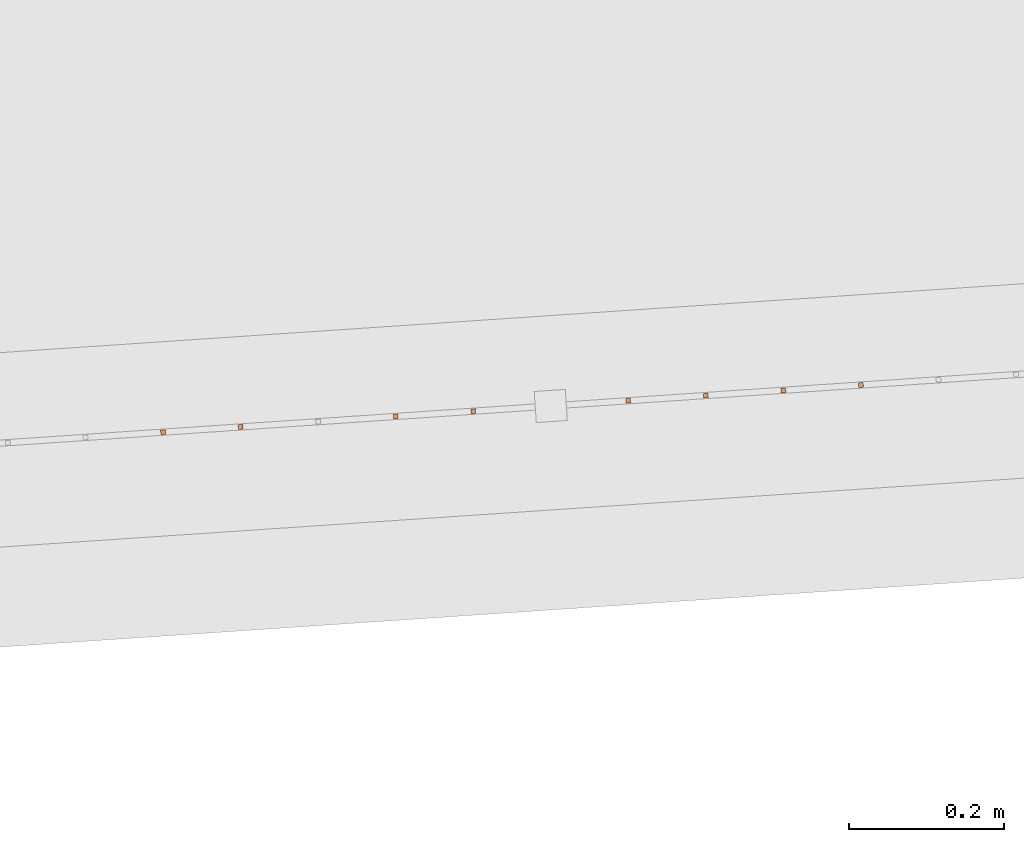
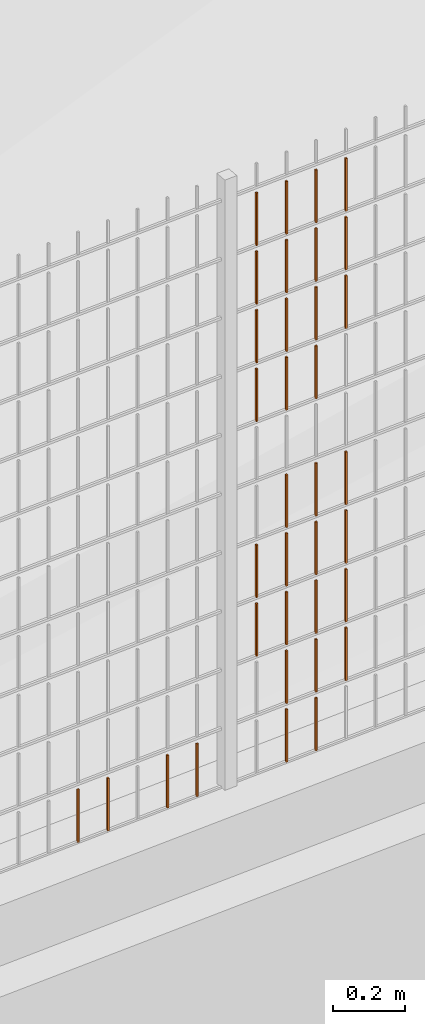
# One storey, part 88 of 1809: 35 proxies, 1 element without a shape of its own.
"""IFC2X3 building model written with IfcOpenShell, lengths in millimetres."""

from ifc_helpers import new_model, entity, si_unit, converted_unit, derived_unit, money_unit, direction, frame, origin_with_axes, place, context, subcontext, project, spatial, faceted_brep, source, transform, mapped, material, type_object, element, aggregate, save


model = new_model("IFC2X3")

# Units and contexts
model_context = context("Model", 3, precision=0.01, world=origin_with_axes(), true_north=direction((0.0, 1.0)))
body_context = subcontext(model_context, "Body", "Model", "MODEL_VIEW")
ifc_project = project(units=[si_unit("LENGTHUNIT", "METRE", prefix="MILLI"), si_unit("AREAUNIT", "SQUARE_METRE"), si_unit("VOLUMEUNIT", "CUBIC_METRE"), converted_unit("PLANEANGLEUNIT", "DEGREE", entity("IfcPlaneAngleMeasure", 0.0174532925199), si_unit("PLANEANGLEUNIT", "RADIAN"), dimensions=[0, 0, 0, 0, 0, 0, 0]), si_unit("SOLIDANGLEUNIT", "STERADIAN"), money_unit("EUR"), converted_unit("TIMEUNIT", "Year", entity("IfcTimeMeasure", 31556926.0), si_unit("TIMEUNIT", "SECOND"), dimensions=[0, 0, 1, 0, 0, 0, 0]), si_unit("MASSUNIT", "GRAM", prefix="KILO"), si_unit("THERMODYNAMICTEMPERATUREUNIT", "DEGREE_CELSIUS"), si_unit("LUMINOUSINTENSITYUNIT", "LUMEN"), si_unit("ENERGYUNIT", "JOULE", prefix="MEGA"), derived_unit("THERMALCONDUCTANCEUNIT", [(si_unit("POWERUNIT", "WATT"), 1), (si_unit("LENGTHUNIT", "METRE"), -1), (si_unit("THERMODYNAMICTEMPERATUREUNIT", "KELVIN"), -1)]), derived_unit("SPECIFICHEATCAPACITYUNIT", [(si_unit("ENERGYUNIT", "JOULE"), 1), (si_unit("MASSUNIT", "GRAM", prefix="KILO"), -1), (si_unit("THERMODYNAMICTEMPERATUREUNIT", "KELVIN"), -1)]), derived_unit("MASSDENSITYUNIT", [(si_unit("MASSUNIT", "GRAM", prefix="KILO"), 1), (si_unit("VOLUMEUNIT", "CUBIC_METRE"), -1)])], contexts=[model_context])

# Site, building, storey
site_placement = place(None, origin_with_axes())
site = spatial("IfcSite", under=ifc_project, at=site_placement, Name="Politse- ja Piirivalveameti ning Päästeameti ühishoone", CompositionType="ELEMENT")
building_placement = place(site_placement, origin_with_axes())
building = spatial("IfcBuilding", under=site, at=building_placement, Name="Politse- ja Piirivalveameti ning Päästeameti ühishoone", CompositionType="ELEMENT")
storey_placement = place(building_placement, origin_with_axes())
storey = spatial("IfcBuildingStorey", under=building, at=storey_placement, Name="Esimene korrus", CompositionType="ELEMENT", Elevation=0.0)

# Proxies
building_element_proxy_type_1 = type_object("IfcBuildingElementProxyType", Name="Railing Type", PredefinedType="NOTDEFINED")
proxy_1_placement = place(storey_placement, frame((89252.001212, -29183.4766571, 203.661247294), z_axis=(0.0, 0.0, 1.0), x_axis=(1.0, 0.0, 0.0)))
proxy_1 = element("IfcBuildingElementProxy", 1, at=proxy_1_placement, inside=storey, type_object=building_element_proxy_type_1, Name="PIIRDEAED")
ifc_material = material(Name="ET-03_Raud")
building_element_proxy_type_2 = type_object("IfcBuildingElementProxyType", Name="IfcBuildingElementProxy", PredefinedType="NOTDEFINED")
shared_shape_1 = source(origin_with_axes(), body_context, "Body", "Brep", [
    faceted_brep([(3.0, 3.0, -0.000752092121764), (-3.0, 3.0, -0.000752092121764), (-3.0, 3.0, 179.99926046), (3.0, 3.0, 179.99926046), (3.0, -3.0, 0.000752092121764), (-3.0, -3.0, 0.000752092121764), (-3.0, -3.0, 180.000764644), (3.0, -3.0, 180.000764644)], [[[0, 1, 2, 3]], [[0, 4, 5, 1]], [[1, 5, 6, 2]], [[3, 2, 6, 7]], [[4, 0, 3, 7]], [[5, 4, 7, 6]]]),
])
proxy_2_placement = place(proxy_1_placement, frame((-99300.4170534, -24005.1431873, 802.283306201), z_axis=(0.0, 0.0, 1.0), x_axis=(1.0, 0.0, 0.0)))
proxy_2 = element("IfcBuildingElementProxy", 2, at=proxy_2_placement, type_object=building_element_proxy_type_2, material=ifc_material, Name="BALUSTER - 001", context=body_context, shape_type="MappedRepresentation", body=[
    mapped(shared_shape_1, transform((0.0, 0.0, 0.0), x_axis=(-0.0673926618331, 0.997726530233, 0.0), y_axis=(-0.997726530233, -0.0673926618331, 0.0), z_axis=(0.0, 0.0, 1.0))),
])
shared_shape_2 = source(origin_with_axes(), body_context, "Body", "Brep", [
    faceted_brep([(3.0, 3.0, -0.000752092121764), (-3.0, 3.0, -0.000752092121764), (-3.0, 3.0, 179.99926046), (3.0, 3.0, 179.99926046), (3.0, -3.0, 0.000752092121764), (-3.0, -3.0, 0.000752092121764), (-3.0, -3.0, 180.000764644), (3.0, -3.0, 180.000764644)], [[[0, 1, 2, 3]], [[0, 4, 5, 1]], [[1, 5, 6, 2]], [[3, 2, 6, 7]], [[4, 0, 3, 7]], [[5, 4, 7, 6]]]),
])
proxy_3_placement = place(proxy_1_placement, frame((-99300.4170534, -24005.1431873, 202.283306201), z_axis=(0.0, 0.0, 1.0), x_axis=(1.0, 0.0, 0.0)))
proxy_3 = element("IfcBuildingElementProxy", 3, at=proxy_3_placement, type_object=building_element_proxy_type_2, material=ifc_material, Name="BALUSTER - 001", context=body_context, shape_type="MappedRepresentation", body=[
    mapped(shared_shape_2, transform((0.0, 0.0, 0.0), x_axis=(-0.0673926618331, 0.997726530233, 0.0), y_axis=(-0.997726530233, -0.0673926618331, 0.0), z_axis=(0.0, 0.0, 1.0))),
])
shared_shape_3 = source(origin_with_axes(), body_context, "Body", "Brep", [
    faceted_brep([(3.0, 3.0, -0.000752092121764), (-3.0, 3.0, -0.000752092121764), (-3.0, 3.0, 179.99926046), (3.0, 3.0, 179.99926046), (3.0, -3.0, 0.000752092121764), (-3.0, -3.0, 0.000752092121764), (-3.0, -3.0, 180.000764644), (3.0, -3.0, 180.000764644)], [[[0, 1, 2, 3]], [[0, 4, 5, 1]], [[1, 5, 6, 2]], [[3, 2, 6, 7]], [[4, 0, 3, 7]], [[5, 4, 7, 6]]]),
])
proxy_4_placement = place(proxy_1_placement, frame((-99300.4170534, -24005.1431873, 402.283306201), z_axis=(0.0, 0.0, 1.0), x_axis=(1.0, 0.0, 0.0)))
proxy_4 = element("IfcBuildingElementProxy", 4, at=proxy_4_placement, type_object=building_element_proxy_type_2, material=ifc_material, Name="BALUSTER - 001", context=body_context, shape_type="MappedRepresentation", body=[
    mapped(shared_shape_3, transform((0.0, 0.0, 0.0), x_axis=(-0.0673926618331, 0.997726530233, 0.0), y_axis=(-0.997726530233, -0.0673926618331, 0.0), z_axis=(0.0, 0.0, 1.0))),
])
proxy_5_placement = place(proxy_1_placement, frame((-99300.4170534, -24005.1431873, 602.283306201), z_axis=(0.0, 0.0, 1.0), x_axis=(1.0, 0.0, 0.0)))
proxy_5 = element("IfcBuildingElementProxy", 5, at=proxy_5_placement, type_object=building_element_proxy_type_2, material=ifc_material, Name="BALUSTER - 001", context=body_context, shape_type="MappedRepresentation", body=[
    mapped(shared_shape_3, transform((0.0, 0.0, 0.0), x_axis=(-0.0673926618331, 0.997726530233, 0.0), y_axis=(-0.997726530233, -0.0673926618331, 0.0), z_axis=(0.0, 0.0, 1.0))),
])
shared_shape_4 = source(origin_with_axes(), body_context, "Body", "Brep", [
    faceted_brep([(3.0, 3.0, -0.000752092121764), (-3.0, 3.0, -0.000752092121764), (-3.0, 3.0, 179.99926046), (3.0, 3.0, 179.99926046), (3.0, -3.0, 0.000752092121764), (-3.0, -3.0, 0.000752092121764), (-3.0, -3.0, 180.000764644), (3.0, -3.0, 180.000764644)], [[[0, 1, 2, 3]], [[0, 4, 5, 1]], [[1, 5, 6, 2]], [[3, 2, 6, 7]], [[4, 0, 3, 7]], [[5, 4, 7, 6]]]),
])
proxy_6_placement = place(proxy_1_placement, frame((-99300.4170534, -24005.1431873, 2.28330620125), z_axis=(0.0, 0.0, 1.0), x_axis=(1.0, 0.0, 0.0)))
proxy_6 = element("IfcBuildingElementProxy", 6, at=proxy_6_placement, type_object=building_element_proxy_type_2, material=ifc_material, Name="BALUSTER - 001", context=body_context, shape_type="MappedRepresentation", body=[
    mapped(shared_shape_4, transform((0.0, 0.0, 0.0), x_axis=(-0.0673926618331, 0.997726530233, 0.0), y_axis=(-0.997726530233, -0.0673926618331, 0.0), z_axis=(0.0, 0.0, 1.0))),
])
shared_shape_5 = source(origin_with_axes(), body_context, "Body", "Brep", [
    faceted_brep([(3.0, 3.0, -0.000752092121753), (-3.0, 3.0, -0.000752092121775), (-3.0, 3.0, 179.99926046), (3.0, 3.0, 179.99926046), (3.0, -3.0, 0.000752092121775), (-3.0, -3.0, 0.000752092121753), (-3.0, -3.0, 180.000764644), (3.0, -3.0, 180.000764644)], [[[0, 1, 2, 3]], [[0, 4, 5, 1]], [[1, 5, 6, 2]], [[3, 2, 6, 7]], [[4, 0, 3, 7]], [[5, 4, 7, 6]]]),
])
proxy_7_placement = place(proxy_1_placement, frame((-99400.1897064, -24011.8824535, 2.25823646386), z_axis=(0.0, 0.0, 1.0), x_axis=(1.0, 0.0, 0.0)))
proxy_7 = element("IfcBuildingElementProxy", 7, at=proxy_7_placement, type_object=building_element_proxy_type_2, material=ifc_material, Name="BALUSTER - 001", context=body_context, shape_type="MappedRepresentation", body=[
    mapped(shared_shape_5, transform((0.0, 0.0, 0.0), x_axis=(-0.0673926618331, 0.997726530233, 0.0), y_axis=(-0.997726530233, -0.0673926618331, 0.0), z_axis=(0.0, 0.0, 1.0))),
])
proxy_8_placement = place(proxy_1_placement, frame((-99400.1897064, -24011.8824535, 202.258236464), z_axis=(0.0, 0.0, 1.0), x_axis=(1.0, 0.0, 0.0)))
proxy_8 = element("IfcBuildingElementProxy", 8, at=proxy_8_placement, type_object=building_element_proxy_type_2, material=ifc_material, Name="BALUSTER - 001", context=body_context, shape_type="MappedRepresentation", body=[
    mapped(shared_shape_5, transform((0.0, 0.0, 0.0), x_axis=(-0.0673926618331, 0.997726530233, 0.0), y_axis=(-0.997726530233, -0.0673926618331, 0.0), z_axis=(0.0, 0.0, 1.0))),
])
proxy_9_placement = place(proxy_1_placement, frame((-99998.8256245, -24052.3180506, 2.10781803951), z_axis=(0.0, 0.0, 1.0), x_axis=(1.0, 0.0, 0.0)))
proxy_9 = element("IfcBuildingElementProxy", 9, at=proxy_9_placement, type_object=building_element_proxy_type_2, material=ifc_material, Name="BALUSTER - 001", context=body_context, shape_type="MappedRepresentation", body=[
    mapped(shared_shape_5, transform((0.0, 0.0, 0.0), x_axis=(-0.0673926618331, 0.997726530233, 0.0), y_axis=(-0.997726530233, -0.0673926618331, 0.0), z_axis=(0.0, 0.0, 1.0))),
])
shared_shape_6 = source(origin_with_axes(), body_context, "Body", "Brep", [
    faceted_brep([(3.0, 3.0, -0.000752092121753), (-3.0, 3.0, -0.000752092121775), (-3.0, 3.0, 179.99926046), (3.0, 3.0, 179.99926046), (3.0, -3.0, 0.000752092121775), (-3.0, -3.0, 0.000752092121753), (-3.0, -3.0, 180.000764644), (3.0, -3.0, 180.000764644)], [[[0, 1, 2, 3]], [[0, 4, 5, 1]], [[1, 5, 6, 2]], [[3, 2, 6, 7]], [[4, 0, 3, 7]], [[5, 4, 7, 6]]]),
])
proxy_10_placement = place(proxy_1_placement, frame((-99400.1897064, -24011.8824535, 402.258236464), z_axis=(0.0, 0.0, 1.0), x_axis=(1.0, 0.0, 0.0)))
proxy_10 = element("IfcBuildingElementProxy", 10, at=proxy_10_placement, type_object=building_element_proxy_type_2, material=ifc_material, Name="BALUSTER - 001", context=body_context, shape_type="MappedRepresentation", body=[
    mapped(shared_shape_6, transform((0.0, 0.0, 0.0), x_axis=(-0.0673926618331, 0.997726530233, 0.0), y_axis=(-0.997726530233, -0.0673926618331, 0.0), z_axis=(0.0, 0.0, 1.0))),
])
shared_shape_7 = source(origin_with_axes(), body_context, "Body", "Brep", [
    faceted_brep([(3.0, 3.0, -0.000752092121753), (-3.0, 3.0, -0.000752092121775), (-3.0, 3.0, 179.99926046), (3.0, 3.0, 179.99926046), (3.0, -3.0, 0.000752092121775), (-3.0, -3.0, 0.000752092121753), (-3.0, -3.0, 180.000764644), (3.0, -3.0, 180.000764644)], [[[0, 1, 2, 3]], [[0, 4, 5, 1]], [[1, 5, 6, 2]], [[3, 2, 6, 7]], [[4, 0, 3, 7]], [[5, 4, 7, 6]]]),
])
proxy_11_placement = place(proxy_1_placement, frame((-99400.1897064, -24011.8824535, 602.258236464), z_axis=(0.0, 0.0, 1.0), x_axis=(1.0, 0.0, 0.0)))
proxy_11 = element("IfcBuildingElementProxy", 11, at=proxy_11_placement, type_object=building_element_proxy_type_2, material=ifc_material, Name="BALUSTER - 001", context=body_context, shape_type="MappedRepresentation", body=[
    mapped(shared_shape_7, transform((0.0, 0.0, 0.0), x_axis=(-0.0673926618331, 0.997726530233, 0.0), y_axis=(-0.997726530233, -0.0673926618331, 0.0), z_axis=(0.0, 0.0, 1.0))),
])
shared_shape_8 = source(origin_with_axes(), body_context, "Body", "Brep", [
    faceted_brep([(3.0, 3.0, -0.000752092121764), (-3.0, 3.0, -0.000752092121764), (-3.0, 3.0, 179.99926046), (3.0, 3.0, 179.99926046), (3.0, -3.0, 0.000752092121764), (-3.0, -3.0, 0.000752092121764), (-3.0, -3.0, 180.000764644), (3.0, -3.0, 180.000764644)], [[[0, 1, 2, 3]], [[0, 4, 5, 1]], [[1, 5, 6, 2]], [[3, 2, 6, 7]], [[4, 0, 3, 7]], [[5, 4, 7, 6]]]),
])
proxy_12_placement = place(proxy_1_placement, frame((-99499.9623594, -24018.6217197, 1802.23316673), z_axis=(0.0, 0.0, 1.0), x_axis=(1.0, 0.0, 0.0)))
proxy_12 = element("IfcBuildingElementProxy", 12, at=proxy_12_placement, type_object=building_element_proxy_type_2, material=ifc_material, Name="BALUSTER - 001", context=body_context, shape_type="MappedRepresentation", body=[
    mapped(shared_shape_8, transform((0.0, 0.0, 0.0), x_axis=(-0.0673926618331, 0.997726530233, 0.0), y_axis=(-0.997726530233, -0.0673926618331, 0.0), z_axis=(0.0, 0.0, 1.0))),
])
shared_shape_9 = source(origin_with_axes(), body_context, "Body", "Brep", [
    faceted_brep([(3.0, 3.0, -0.000752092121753), (-3.0, 3.0, -0.000752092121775), (-3.0, 3.0, 179.99926046), (3.0, 3.0, 179.99926046), (3.0, -3.0, 0.000752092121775), (-3.0, -3.0, 0.000752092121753), (-3.0, -3.0, 180.000764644), (3.0, -3.0, 180.000764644)], [[[0, 1, 2, 3]], [[0, 4, 5, 1]], [[1, 5, 6, 2]], [[3, 2, 6, 7]], [[4, 0, 3, 7]], [[5, 4, 7, 6]]]),
])
proxy_13_placement = place(proxy_1_placement, frame((-99400.1897064, -24011.8824535, 802.258236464), z_axis=(0.0, 0.0, 1.0), x_axis=(1.0, 0.0, 0.0)))
proxy_13 = element("IfcBuildingElementProxy", 13, at=proxy_13_placement, type_object=building_element_proxy_type_2, material=ifc_material, Name="BALUSTER - 001", context=body_context, shape_type="MappedRepresentation", body=[
    mapped(shared_shape_9, transform((0.0, 0.0, 0.0), x_axis=(-0.0673926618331, 0.997726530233, 0.0), y_axis=(-0.997726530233, -0.0673926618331, 0.0), z_axis=(0.0, 0.0, 1.0))),
])
shared_shape_10 = source(origin_with_axes(), body_context, "Body", "Brep", [
    faceted_brep([(3.0, 3.0, -0.000752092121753), (-3.0, 3.0, -0.000752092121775), (-3.0, 3.0, 179.99926046), (3.0, 3.0, 179.99926046), (3.0, -3.0, 0.000752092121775), (-3.0, -3.0, 0.000752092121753), (-3.0, -3.0, 180.000764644), (3.0, -3.0, 180.000764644)], [[[0, 1, 2, 3]], [[0, 4, 5, 1]], [[1, 5, 6, 2]], [[3, 2, 6, 7]], [[4, 0, 3, 7]], [[5, 4, 7, 6]]]),
])
proxy_14_placement = place(proxy_1_placement, frame((-99699.5076655, -24032.100252, 2.18302725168), z_axis=(0.0, 0.0, 1.0), x_axis=(1.0, 0.0, 0.0)))
proxy_14 = element("IfcBuildingElementProxy", 14, at=proxy_14_placement, type_object=building_element_proxy_type_2, material=ifc_material, Name="BALUSTER - 001", context=body_context, shape_type="MappedRepresentation", body=[
    mapped(shared_shape_10, transform((0.0, 0.0, 0.0), x_axis=(-0.0673926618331, 0.997726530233, 0.0), y_axis=(-0.997726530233, -0.0673926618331, 0.0), z_axis=(0.0, 0.0, 1.0))),
])
shared_shape_11 = source(origin_with_axes(), body_context, "Body", "Brep", [
    faceted_brep([(3.0, 3.0, -0.000752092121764), (-3.0, 3.0, -0.000752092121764), (-3.0, 3.0, 179.99926046), (3.0, 3.0, 179.99926046), (3.0, -3.0, 0.000752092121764), (-3.0, -3.0, 0.000752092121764), (-3.0, -3.0, 180.000764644), (3.0, -3.0, 180.000764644)], [[[0, 1, 2, 3]], [[0, 4, 5, 1]], [[1, 5, 6, 2]], [[3, 2, 6, 7]], [[4, 0, 3, 7]], [[5, 4, 7, 6]]]),
])
proxy_15_placement = place(proxy_1_placement, frame((-99499.9623594, -24018.6217197, 1202.23316673), z_axis=(0.0, 0.0, 1.0), x_axis=(1.0, 0.0, 0.0)))
proxy_15 = element("IfcBuildingElementProxy", 15, at=proxy_15_placement, type_object=building_element_proxy_type_2, material=ifc_material, Name="BALUSTER - 001", context=body_context, shape_type="MappedRepresentation", body=[
    mapped(shared_shape_11, transform((0.0, 0.0, 0.0), x_axis=(-0.0673926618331, 0.997726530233, 0.0), y_axis=(-0.997726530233, -0.0673926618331, 0.0), z_axis=(0.0, 0.0, 1.0))),
])
shared_shape_12 = source(origin_with_axes(), body_context, "Body", "Brep", [
    faceted_brep([(3.0, 3.0, -0.000752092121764), (-3.0, 3.0, -0.000752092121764), (-3.0, 3.0, 179.99926046), (3.0, 3.0, 179.99926046), (3.0, -3.0, 0.000752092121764), (-3.0, -3.0, 0.000752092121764), (-3.0, -3.0, 180.000764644), (3.0, -3.0, 180.000764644)], [[[0, 1, 2, 3]], [[0, 4, 5, 1]], [[1, 5, 6, 2]], [[3, 2, 6, 7]], [[4, 0, 3, 7]], [[5, 4, 7, 6]]]),
])
proxy_16_placement = place(proxy_1_placement, frame((-99499.9623594, -24018.6217197, 1402.23316673), z_axis=(0.0, 0.0, 1.0), x_axis=(1.0, 0.0, 0.0)))
proxy_16 = element("IfcBuildingElementProxy", 16, at=proxy_16_placement, type_object=building_element_proxy_type_2, material=ifc_material, Name="BALUSTER - 001", context=body_context, shape_type="MappedRepresentation", body=[
    mapped(shared_shape_12, transform((0.0, 0.0, 0.0), x_axis=(-0.0673926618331, 0.997726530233, 0.0), y_axis=(-0.997726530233, -0.0673926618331, 0.0), z_axis=(0.0, 0.0, 1.0))),
])
proxy_17_placement = place(proxy_1_placement, frame((-99499.9623594, -24018.6217197, 1602.23316673), z_axis=(0.0, 0.0, 1.0), x_axis=(1.0, 0.0, 0.0)))
proxy_17 = element("IfcBuildingElementProxy", 17, at=proxy_17_placement, type_object=building_element_proxy_type_2, material=ifc_material, Name="BALUSTER - 001", context=body_context, shape_type="MappedRepresentation", body=[
    mapped(shared_shape_12, transform((0.0, 0.0, 0.0), x_axis=(-0.0673926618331, 0.997726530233, 0.0), y_axis=(-0.997726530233, -0.0673926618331, 0.0), z_axis=(0.0, 0.0, 1.0))),
])
shared_shape_13 = source(origin_with_axes(), body_context, "Body", "Brep", [
    faceted_brep([(3.0, 3.0, -0.000752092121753), (-3.0, 3.0, -0.000752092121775), (-3.0, 3.0, 179.99926046), (3.0, 3.0, 179.99926046), (3.0, -3.0, 0.000752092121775), (-3.0, -3.0, 0.000752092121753), (-3.0, -3.0, 180.000764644), (3.0, -3.0, 180.000764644)], [[[0, 1, 2, 3]], [[0, 4, 5, 1]], [[1, 5, 6, 2]], [[3, 2, 6, 7]], [[4, 0, 3, 7]], [[5, 4, 7, 6]]]),
])
proxy_18_placement = place(proxy_1_placement, frame((-99400.1897064, -24011.8824535, 1802.25823646), z_axis=(0.0, 0.0, 1.0), x_axis=(1.0, 0.0, 0.0)))
proxy_18 = element("IfcBuildingElementProxy", 18, at=proxy_18_placement, type_object=building_element_proxy_type_2, material=ifc_material, Name="BALUSTER - 001", context=body_context, shape_type="MappedRepresentation", body=[
    mapped(shared_shape_13, transform((0.0, 0.0, 0.0), x_axis=(-0.0673926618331, 0.997726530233, 0.0), y_axis=(-0.997726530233, -0.0673926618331, 0.0), z_axis=(0.0, 0.0, 1.0))),
])
shared_shape_14 = source(origin_with_axes(), body_context, "Body", "Brep", [
    faceted_brep([(3.0, 3.0, -0.000752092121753), (-3.0, 3.0, -0.000752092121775), (-3.0, 3.0, 179.99926046), (3.0, 3.0, 179.99926046), (3.0, -3.0, 0.000752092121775), (-3.0, -3.0, 0.000752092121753), (-3.0, -3.0, 180.000764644), (3.0, -3.0, 180.000764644)], [[[0, 1, 2, 3]], [[0, 4, 5, 1]], [[1, 5, 6, 2]], [[3, 2, 6, 7]], [[4, 0, 3, 7]], [[5, 4, 7, 6]]]),
])
proxy_19_placement = place(proxy_1_placement, frame((-99400.1897064, -24011.8824535, 1202.25823646), z_axis=(0.0, 0.0, 1.0), x_axis=(1.0, 0.0, 0.0)))
proxy_19 = element("IfcBuildingElementProxy", 19, at=proxy_19_placement, type_object=building_element_proxy_type_2, material=ifc_material, Name="BALUSTER - 001", context=body_context, shape_type="MappedRepresentation", body=[
    mapped(shared_shape_14, transform((0.0, 0.0, 0.0), x_axis=(-0.0673926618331, 0.997726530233, 0.0), y_axis=(-0.997726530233, -0.0673926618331, 0.0), z_axis=(0.0, 0.0, 1.0))),
])
shared_shape_15 = source(origin_with_axes(), body_context, "Body", "Brep", [
    faceted_brep([(3.0, 3.0, -0.000752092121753), (-3.0, 3.0, -0.000752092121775), (-3.0, 3.0, 179.99926046), (3.0, 3.0, 179.99926046), (3.0, -3.0, 0.000752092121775), (-3.0, -3.0, 0.000752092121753), (-3.0, -3.0, 180.000764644), (3.0, -3.0, 180.000764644)], [[[0, 1, 2, 3]], [[0, 4, 5, 1]], [[1, 5, 6, 2]], [[3, 2, 6, 7]], [[4, 0, 3, 7]], [[5, 4, 7, 6]]]),
])
proxy_20_placement = place(proxy_1_placement, frame((-99400.1897064, -24011.8824535, 1402.25823646), z_axis=(0.0, 0.0, 1.0), x_axis=(1.0, 0.0, 0.0)))
proxy_20 = element("IfcBuildingElementProxy", 20, at=proxy_20_placement, type_object=building_element_proxy_type_2, material=ifc_material, Name="BALUSTER - 001", context=body_context, shape_type="MappedRepresentation", body=[
    mapped(shared_shape_15, transform((0.0, 0.0, 0.0), x_axis=(-0.0673926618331, 0.997726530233, 0.0), y_axis=(-0.997726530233, -0.0673926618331, 0.0), z_axis=(0.0, 0.0, 1.0))),
])
proxy_21_placement = place(proxy_1_placement, frame((-99400.1897064, -24011.8824535, 1602.25823646), z_axis=(0.0, 0.0, 1.0), x_axis=(1.0, 0.0, 0.0)))
proxy_21 = element("IfcBuildingElementProxy", 21, at=proxy_21_placement, type_object=building_element_proxy_type_2, material=ifc_material, Name="BALUSTER - 001", context=body_context, shape_type="MappedRepresentation", body=[
    mapped(shared_shape_15, transform((0.0, 0.0, 0.0), x_axis=(-0.0673926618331, 0.997726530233, 0.0), y_axis=(-0.997726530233, -0.0673926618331, 0.0), z_axis=(0.0, 0.0, 1.0))),
])
shared_shape_16 = source(origin_with_axes(), body_context, "Body", "Brep", [
    faceted_brep([(3.0, 3.0, -0.00075209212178), (-3.0, 3.0, -0.000752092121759), (-3.0, 3.0, 179.99926046), (3.0, 3.0, 179.99926046), (3.0, -3.0, 0.000752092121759), (-3.0, -3.0, 0.00075209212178), (-3.0, -3.0, 180.000764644), (3.0, -3.0, 180.000764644)], [[[0, 1, 2, 3]], [[0, 4, 5, 1]], [[1, 5, 6, 2]], [[3, 2, 6, 7]], [[4, 0, 3, 7]], [[5, 4, 7, 6]]]),
])
proxy_22_placement = place(proxy_1_placement, frame((-99200.6444004, -23998.4039211, 1802.30837594), z_axis=(0.0, 0.0, 1.0), x_axis=(1.0, 0.0, 0.0)))
proxy_22 = element("IfcBuildingElementProxy", 22, at=proxy_22_placement, type_object=building_element_proxy_type_2, material=ifc_material, Name="BALUSTER - 001", context=body_context, shape_type="MappedRepresentation", body=[
    mapped(shared_shape_16, transform((0.0, 0.0, 0.0), x_axis=(-0.0673926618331, 0.997726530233, 0.0), y_axis=(-0.997726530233, -0.0673926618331, 0.0), z_axis=(0.0, 0.0, 1.0))),
])
shared_shape_17 = source(origin_with_axes(), body_context, "Body", "Brep", [
    faceted_brep([(3.0, 3.0, -0.000752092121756), (-3.0, 3.0, -0.000752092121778), (-3.0, 3.0, 179.99926046), (3.0, 3.0, 179.99926046), (3.0, -3.0, 0.000752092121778), (-3.0, -3.0, 0.000752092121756), (-3.0, -3.0, 180.000764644), (3.0, -3.0, 180.000764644)], [[[0, 1, 2, 3]], [[0, 4, 5, 1]], [[1, 5, 6, 2]], [[3, 2, 6, 7]], [[4, 0, 3, 7]], [[5, 4, 7, 6]]]),
])
proxy_23_placement = place(proxy_1_placement, frame((-99300.4170534, -24005.1431873, 1202.2833062), z_axis=(0.0, 0.0, 1.0), x_axis=(1.0, 0.0, 0.0)))
proxy_23 = element("IfcBuildingElementProxy", 23, at=proxy_23_placement, type_object=building_element_proxy_type_2, material=ifc_material, Name="BALUSTER - 001", context=body_context, shape_type="MappedRepresentation", body=[
    mapped(shared_shape_17, transform((0.0, 0.0, 0.0), x_axis=(-0.0673926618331, 0.997726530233, 0.0), y_axis=(-0.997726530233, -0.0673926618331, 0.0), z_axis=(0.0, 0.0, 1.0))),
])
shared_shape_18 = source(origin_with_axes(), body_context, "Body", "Brep", [
    faceted_brep([(3.0, 3.0, -0.000752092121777), (-3.0, 3.0, -0.000752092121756), (-3.0, 3.0, 179.99926046), (3.0, 3.0, 179.99926046), (3.0, -3.0, 0.000752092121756), (-3.0, -3.0, 0.000752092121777), (-3.0, -3.0, 180.000764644), (3.0, -3.0, 180.000764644)], [[[0, 1, 2, 3]], [[0, 4, 5, 1]], [[1, 5, 6, 2]], [[3, 2, 6, 7]], [[4, 0, 3, 7]], [[5, 4, 7, 6]]]),
])
proxy_24_placement = place(proxy_1_placement, frame((-99200.6444004, -23998.4039211, 202.308375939), z_axis=(0.0, 0.0, 1.0), x_axis=(1.0, 0.0, 0.0)))
proxy_24 = element("IfcBuildingElementProxy", 24, at=proxy_24_placement, type_object=building_element_proxy_type_2, material=ifc_material, Name="BALUSTER - 001", context=body_context, shape_type="MappedRepresentation", body=[
    mapped(shared_shape_18, transform((0.0, 0.0, 0.0), x_axis=(-0.0673926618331, 0.997726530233, 0.0), y_axis=(-0.997726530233, -0.0673926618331, 0.0), z_axis=(0.0, 0.0, 1.0))),
])
shared_shape_19 = source(origin_with_axes(), body_context, "Body", "Brep", [
    faceted_brep([(3.0, 3.0, -0.000752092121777), (-3.0, 3.0, -0.000752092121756), (-3.0, 3.0, 179.99926046), (3.0, 3.0, 179.99926046), (3.0, -3.0, 0.000752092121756), (-3.0, -3.0, 0.000752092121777), (-3.0, -3.0, 180.000764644), (3.0, -3.0, 180.000764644)], [[[0, 1, 2, 3]], [[0, 4, 5, 1]], [[1, 5, 6, 2]], [[3, 2, 6, 7]], [[4, 0, 3, 7]], [[5, 4, 7, 6]]]),
])
proxy_25_placement = place(proxy_1_placement, frame((-99200.6444004, -23998.4039211, 402.308375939), z_axis=(0.0, 0.0, 1.0), x_axis=(1.0, 0.0, 0.0)))
proxy_25 = element("IfcBuildingElementProxy", 25, at=proxy_25_placement, type_object=building_element_proxy_type_2, material=ifc_material, Name="BALUSTER - 001", context=body_context, shape_type="MappedRepresentation", body=[
    mapped(shared_shape_19, transform((0.0, 0.0, 0.0), x_axis=(-0.0673926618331, 0.997726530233, 0.0), y_axis=(-0.997726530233, -0.0673926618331, 0.0), z_axis=(0.0, 0.0, 1.0))),
])
proxy_26_placement = place(proxy_1_placement, frame((-99200.6444004, -23998.4039211, 602.308375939), z_axis=(0.0, 0.0, 1.0), x_axis=(1.0, 0.0, 0.0)))
proxy_26 = element("IfcBuildingElementProxy", 26, at=proxy_26_placement, type_object=building_element_proxy_type_2, material=ifc_material, Name="BALUSTER - 001", context=body_context, shape_type="MappedRepresentation", body=[
    mapped(shared_shape_19, transform((0.0, 0.0, 0.0), x_axis=(-0.0673926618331, 0.997726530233, 0.0), y_axis=(-0.997726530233, -0.0673926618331, 0.0), z_axis=(0.0, 0.0, 1.0))),
])
shared_shape_20 = source(origin_with_axes(), body_context, "Body", "Brep", [
    faceted_brep([(3.0, 3.0, -0.000752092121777), (-3.0, 3.0, -0.000752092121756), (-3.0, 3.0, 179.99926046), (3.0, 3.0, 179.99926046), (3.0, -3.0, 0.000752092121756), (-3.0, -3.0, 0.000752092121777), (-3.0, -3.0, 180.000764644), (3.0, -3.0, 180.000764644)], [[[0, 1, 2, 3]], [[0, 4, 5, 1]], [[1, 5, 6, 2]], [[3, 2, 6, 7]], [[4, 0, 3, 7]], [[5, 4, 7, 6]]]),
])
proxy_27_placement = place(proxy_1_placement, frame((-99200.6444004, -23998.4039211, 802.308375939), z_axis=(0.0, 0.0, 1.0), x_axis=(1.0, 0.0, 0.0)))
proxy_27 = element("IfcBuildingElementProxy", 27, at=proxy_27_placement, type_object=building_element_proxy_type_2, material=ifc_material, Name="BALUSTER - 001", context=body_context, shape_type="MappedRepresentation", body=[
    mapped(shared_shape_20, transform((0.0, 0.0, 0.0), x_axis=(-0.0673926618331, 0.997726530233, 0.0), y_axis=(-0.997726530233, -0.0673926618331, 0.0), z_axis=(0.0, 0.0, 1.0))),
])
shared_shape_21 = source(origin_with_axes(), body_context, "Body", "Brep", [
    faceted_brep([(3.0, 3.0, -0.000752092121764), (-3.0, 3.0, -0.000752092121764), (-3.0, 3.0, 179.99926046), (3.0, 3.0, 179.99926046), (3.0, -3.0, 0.000752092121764), (-3.0, -3.0, 0.000752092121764), (-3.0, -3.0, 180.000764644), (3.0, -3.0, 180.000764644)], [[[0, 1, 2, 3]], [[0, 4, 5, 1]], [[1, 5, 6, 2]], [[3, 2, 6, 7]], [[4, 0, 3, 7]], [[5, 4, 7, 6]]]),
])
proxy_28_placement = place(proxy_1_placement, frame((-100098.598278, -24059.0573168, 2.08274830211), z_axis=(0.0, 0.0, 1.0), x_axis=(1.0, 0.0, 0.0)))
proxy_28 = element("IfcBuildingElementProxy", 28, at=proxy_28_placement, type_object=building_element_proxy_type_2, material=ifc_material, Name="BALUSTER - 001", context=body_context, shape_type="MappedRepresentation", body=[
    mapped(shared_shape_21, transform((0.0, 0.0, 0.0), x_axis=(-0.0673926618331, 0.997726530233, 0.0), y_axis=(-0.997726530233, -0.0673926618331, 0.0), z_axis=(0.0, 0.0, 1.0))),
])
shared_shape_22 = source(origin_with_axes(), body_context, "Body", "Brep", [
    faceted_brep([(3.0, 3.0, -0.000752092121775), (-3.0, 3.0, -0.000752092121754), (-3.0, 3.0, 179.99926046), (3.0, 3.0, 179.99926046), (3.0, -3.0, 0.000752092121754), (-3.0, -3.0, 0.000752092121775), (-3.0, -3.0, 180.000764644), (3.0, -3.0, 180.000764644)], [[[0, 1, 2, 3]], [[0, 4, 5, 1]], [[1, 5, 6, 2]], [[3, 2, 6, 7]], [[4, 0, 3, 7]], [[5, 4, 7, 6]]]),
])
proxy_29_placement = place(proxy_1_placement, frame((-99799.2803185, -24038.8395182, 2.15795751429), z_axis=(0.0, 0.0, 1.0), x_axis=(1.0, 0.0, 0.0)))
proxy_29 = element("IfcBuildingElementProxy", 29, at=proxy_29_placement, type_object=building_element_proxy_type_2, material=ifc_material, Name="BALUSTER - 001", context=body_context, shape_type="MappedRepresentation", body=[
    mapped(shared_shape_22, transform((0.0, 0.0, 0.0), x_axis=(-0.0673926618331, 0.997726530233, 0.0), y_axis=(-0.997726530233, -0.0673926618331, 0.0), z_axis=(0.0, 0.0, 1.0))),
])
shared_shape_23 = source(origin_with_axes(), body_context, "Body", "Brep", [
    faceted_brep([(3.0, 3.0, -0.000752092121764), (-3.0, 3.0, -0.000752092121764), (-3.0, 3.0, 179.99926046), (3.0, 3.0, 179.99926046), (3.0, -3.0, 0.000752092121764), (-3.0, -3.0, 0.000752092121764), (-3.0, -3.0, 180.000764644), (3.0, -3.0, 180.000764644)], [[[0, 1, 2, 3]], [[0, 4, 5, 1]], [[1, 5, 6, 2]], [[3, 2, 6, 7]], [[4, 0, 3, 7]], [[5, 4, 7, 6]]]),
])
proxy_30_placement = place(proxy_1_placement, frame((-99499.9623594, -24018.6217197, 402.233166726), z_axis=(0.0, 0.0, 1.0), x_axis=(1.0, 0.0, 0.0)))
proxy_30 = element("IfcBuildingElementProxy", 30, at=proxy_30_placement, type_object=building_element_proxy_type_2, material=ifc_material, Name="BALUSTER - 001", context=body_context, shape_type="MappedRepresentation", body=[
    mapped(shared_shape_23, transform((0.0, 0.0, 0.0), x_axis=(-0.0673926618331, 0.997726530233, 0.0), y_axis=(-0.997726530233, -0.0673926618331, 0.0), z_axis=(0.0, 0.0, 1.0))),
])
proxy_31_placement = place(proxy_1_placement, frame((-99499.9623594, -24018.6217197, 602.233166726), z_axis=(0.0, 0.0, 1.0), x_axis=(1.0, 0.0, 0.0)))
proxy_31 = element("IfcBuildingElementProxy", 31, at=proxy_31_placement, type_object=building_element_proxy_type_2, material=ifc_material, Name="BALUSTER - 001", context=body_context, shape_type="MappedRepresentation", body=[
    mapped(shared_shape_23, transform((0.0, 0.0, 0.0), x_axis=(-0.0673926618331, 0.997726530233, 0.0), y_axis=(-0.997726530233, -0.0673926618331, 0.0), z_axis=(0.0, 0.0, 1.0))),
])
shared_shape_24 = source(origin_with_axes(), body_context, "Body", "Brep", [
    faceted_brep([(3.0, 3.0, -0.000752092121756), (-3.0, 3.0, -0.000752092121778), (-3.0, 3.0, 179.99926046), (3.0, 3.0, 179.99926046), (3.0, -3.0, 0.000752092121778), (-3.0, -3.0, 0.000752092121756), (-3.0, -3.0, 180.000764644), (3.0, -3.0, 180.000764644)], [[[0, 1, 2, 3]], [[0, 4, 5, 1]], [[1, 5, 6, 2]], [[3, 2, 6, 7]], [[4, 0, 3, 7]], [[5, 4, 7, 6]]]),
])
proxy_32_placement = place(proxy_1_placement, frame((-99300.4170534, -24005.1431873, 1802.2833062), z_axis=(0.0, 0.0, 1.0), x_axis=(1.0, 0.0, 0.0)))
proxy_32 = element("IfcBuildingElementProxy", 32, at=proxy_32_placement, type_object=building_element_proxy_type_2, material=ifc_material, Name="BALUSTER - 001", context=body_context, shape_type="MappedRepresentation", body=[
    mapped(shared_shape_24, transform((0.0, 0.0, 0.0), x_axis=(-0.0673926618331, 0.997726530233, 0.0), y_axis=(-0.997726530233, -0.0673926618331, 0.0), z_axis=(0.0, 0.0, 1.0))),
])
shared_shape_25 = source(origin_with_axes(), body_context, "Body", "Brep", [
    faceted_brep([(3.0, 3.0, -0.00075209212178), (-3.0, 3.0, -0.000752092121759), (-3.0, 3.0, 179.99926046), (3.0, 3.0, 179.99926046), (3.0, -3.0, 0.000752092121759), (-3.0, -3.0, 0.00075209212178), (-3.0, -3.0, 180.000764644), (3.0, -3.0, 180.000764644)], [[[0, 1, 2, 3]], [[0, 4, 5, 1]], [[1, 5, 6, 2]], [[3, 2, 6, 7]], [[4, 0, 3, 7]], [[5, 4, 7, 6]]]),
])
proxy_33_placement = place(proxy_1_placement, frame((-99200.6444004, -23998.4039211, 1402.30837594), z_axis=(0.0, 0.0, 1.0), x_axis=(1.0, 0.0, 0.0)))
proxy_33 = element("IfcBuildingElementProxy", 33, at=proxy_33_placement, type_object=building_element_proxy_type_2, material=ifc_material, Name="BALUSTER - 001", context=body_context, shape_type="MappedRepresentation", body=[
    mapped(shared_shape_25, transform((0.0, 0.0, 0.0), x_axis=(-0.0673926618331, 0.997726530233, 0.0), y_axis=(-0.997726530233, -0.0673926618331, 0.0), z_axis=(0.0, 0.0, 1.0))),
])
proxy_34_placement = place(proxy_1_placement, frame((-99200.6444004, -23998.4039211, 1602.30837594), z_axis=(0.0, 0.0, 1.0), x_axis=(1.0, 0.0, 0.0)))
proxy_34 = element("IfcBuildingElementProxy", 34, at=proxy_34_placement, type_object=building_element_proxy_type_2, material=ifc_material, Name="BALUSTER - 001", context=body_context, shape_type="MappedRepresentation", body=[
    mapped(shared_shape_25, transform((0.0, 0.0, 0.0), x_axis=(-0.0673926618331, 0.997726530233, 0.0), y_axis=(-0.997726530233, -0.0673926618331, 0.0), z_axis=(0.0, 0.0, 1.0))),
])
shared_shape_26 = source(origin_with_axes(), body_context, "Body", "Brep", [
    faceted_brep([(3.0, 3.0, -0.000752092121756), (-3.0, 3.0, -0.000752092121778), (-3.0, 3.0, 179.99926046), (3.0, 3.0, 179.99926046), (3.0, -3.0, 0.000752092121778), (-3.0, -3.0, 0.000752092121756), (-3.0, -3.0, 180.000764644), (3.0, -3.0, 180.000764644)], [[[0, 1, 2, 3]], [[0, 4, 5, 1]], [[1, 5, 6, 2]], [[3, 2, 6, 7]], [[4, 0, 3, 7]], [[5, 4, 7, 6]]]),
])
proxy_35_placement = place(proxy_1_placement, frame((-99300.4170534, -24005.1431873, 1402.2833062), z_axis=(0.0, 0.0, 1.0), x_axis=(1.0, 0.0, 0.0)))
proxy_35 = element("IfcBuildingElementProxy", 35, at=proxy_35_placement, type_object=building_element_proxy_type_2, material=ifc_material, Name="BALUSTER - 001", context=body_context, shape_type="MappedRepresentation", body=[
    mapped(shared_shape_26, transform((0.0, 0.0, 0.0), x_axis=(-0.0673926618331, 0.997726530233, 0.0), y_axis=(-0.997726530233, -0.0673926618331, 0.0), z_axis=(0.0, 0.0, 1.0))),
])
proxy_36_placement = place(proxy_1_placement, frame((-99300.4170534, -24005.1431873, 1602.2833062), z_axis=(0.0, 0.0, 1.0), x_axis=(1.0, 0.0, 0.0)))
proxy_36 = element("IfcBuildingElementProxy", 36, at=proxy_36_placement, type_object=building_element_proxy_type_2, material=ifc_material, Name="BALUSTER - 001", context=body_context, shape_type="MappedRepresentation", body=[
    mapped(shared_shape_26, transform((0.0, 0.0, 0.0), x_axis=(-0.0673926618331, 0.997726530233, 0.0), y_axis=(-0.997726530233, -0.0673926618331, 0.0), z_axis=(0.0, 0.0, 1.0))),
])
aggregate(proxy_1, [proxy_6, proxy_7, proxy_24, proxy_3, proxy_8, proxy_25, proxy_4, proxy_10, proxy_30, proxy_26, proxy_5, proxy_11, proxy_31, proxy_27, proxy_2, proxy_13, proxy_23, proxy_19, proxy_15, proxy_33, proxy_35, proxy_20, proxy_16, proxy_34, proxy_36, proxy_21, proxy_17, proxy_22, proxy_32, proxy_18, proxy_12, proxy_14, proxy_29, proxy_9, proxy_28])

save(model, "model.ifc")
